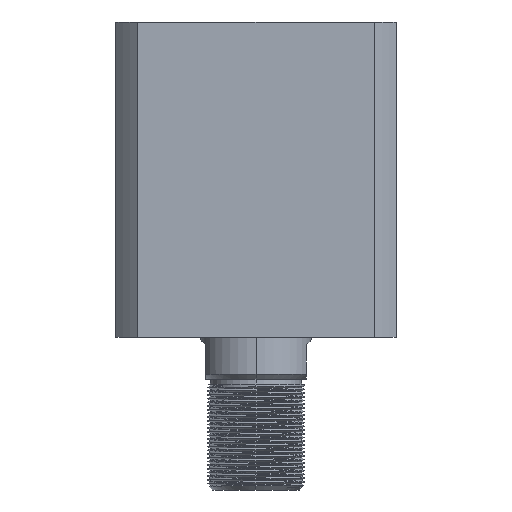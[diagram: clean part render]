
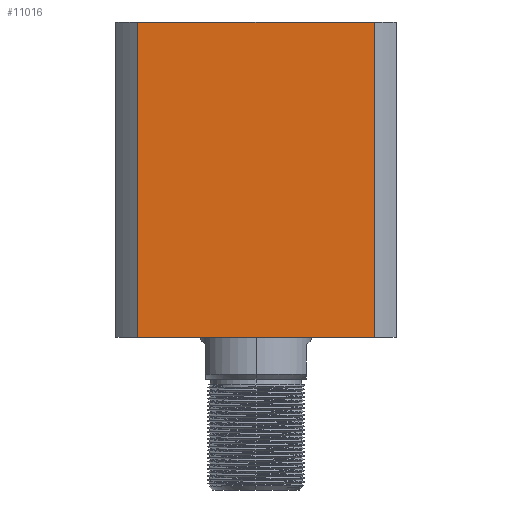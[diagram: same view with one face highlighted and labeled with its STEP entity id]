
A CAD part, front view. The second image highlights one B-rep face of the part: STEP entity #11016.
In plain terms, the highlighted planar face has unit normal (0, -1, 0) as drawn and (1, 0, 0) by its records, which use the part's own axes.
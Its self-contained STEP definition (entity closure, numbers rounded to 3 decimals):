
#112 = LINE ( 'NONE', #17269, #7531 ) ;
#447 = CARTESIAN_POINT ( 'NONE',  ( 57., 57., 0. ) ) ;
#2270 = LINE ( 'NONE', #20482, #6963 ) ;
#2843 = LINE ( 'NONE', #3321, #10240 ) ;
#3321 = CARTESIAN_POINT ( 'NONE',  ( 57., 47.971, -172. ) ) ;
#3785 = VERTEX_POINT ( 'NONE', #4261 ) ;
#4261 = CARTESIAN_POINT ( 'NONE',  ( 57., 47.971, 128. ) ) ;
#4674 = CARTESIAN_POINT ( 'NONE',  ( 57., 57., 128. ) ) ;
#5224 = EDGE_LOOP ( 'NONE', ( #14735, #5280, #6625, #13543 ) ) ;
#5280 = ORIENTED_EDGE ( 'NONE', *, *, #14729, .T. ) ;
#6625 = ORIENTED_EDGE ( 'NONE', *, *, #11832, .F. ) ;
#6963 = VECTOR ( 'NONE', #9438, 1000. ) ;
#7270 = VERTEX_POINT ( 'NONE', #19701 ) ;
#7283 = FACE_OUTER_BOUND ( 'NONE', #5224, .T. ) ;
#7531 = VECTOR ( 'NONE', #12587, 1000. ) ;
#7841 = DIRECTION ( 'NONE',  ( 0., -1., 0. ) ) ;
#7978 = VECTOR ( 'NONE', #14692, 1000. ) ;
#9438 = DIRECTION ( 'NONE',  ( 0., 1., 0. ) ) ;
#10240 = VECTOR ( 'NONE', #19125, 1000. ) ;
#11016 = ADVANCED_FACE ( 'NONE', ( #7283 ), #15706, .F. ) ;
#11626 = EDGE_CURVE ( 'NONE', #18594, #17633, #112, .T. ) ;
#11832 = EDGE_CURVE ( 'NONE', #3785, #7270, #2843, .T. ) ;
#12161 = LINE ( 'NONE', #447, #7978 ) ;
#12587 = DIRECTION ( 'NONE',  ( 0., 0., 1. ) ) ;
#13543 = ORIENTED_EDGE ( 'NONE', *, *, #19948, .F. ) ;
#14622 = CARTESIAN_POINT ( 'NONE',  ( 57., -47.971, 128. ) ) ;
#14692 = DIRECTION ( 'NONE',  ( 0., 1., 0. ) ) ;
#14729 = EDGE_CURVE ( 'NONE', #18594, #7270, #12161, .T. ) ;
#14735 = ORIENTED_EDGE ( 'NONE', *, *, #11626, .F. ) ;
#15706 = PLANE ( 'NONE',  #16448 ) ;
#16448 = AXIS2_PLACEMENT_3D ( 'NONE', #4674, #17291, #7841 ) ;
#17269 = CARTESIAN_POINT ( 'NONE',  ( 57., -47.971, -172. ) ) ;
#17291 = DIRECTION ( 'NONE',  ( -1., 0., 0. ) ) ;
#17633 = VERTEX_POINT ( 'NONE', #14622 ) ;
#18516 = CARTESIAN_POINT ( 'NONE',  ( 57., -47.971, 0. ) ) ;
#18594 = VERTEX_POINT ( 'NONE', #18516 ) ;
#19125 = DIRECTION ( 'NONE',  ( 0., 0., -1. ) ) ;
#19701 = CARTESIAN_POINT ( 'NONE',  ( 57., 47.971, 0. ) ) ;
#19948 = EDGE_CURVE ( 'NONE', #17633, #3785, #2270, .T. ) ;
#20482 = CARTESIAN_POINT ( 'NONE',  ( 57., 57., 128. ) ) ;
